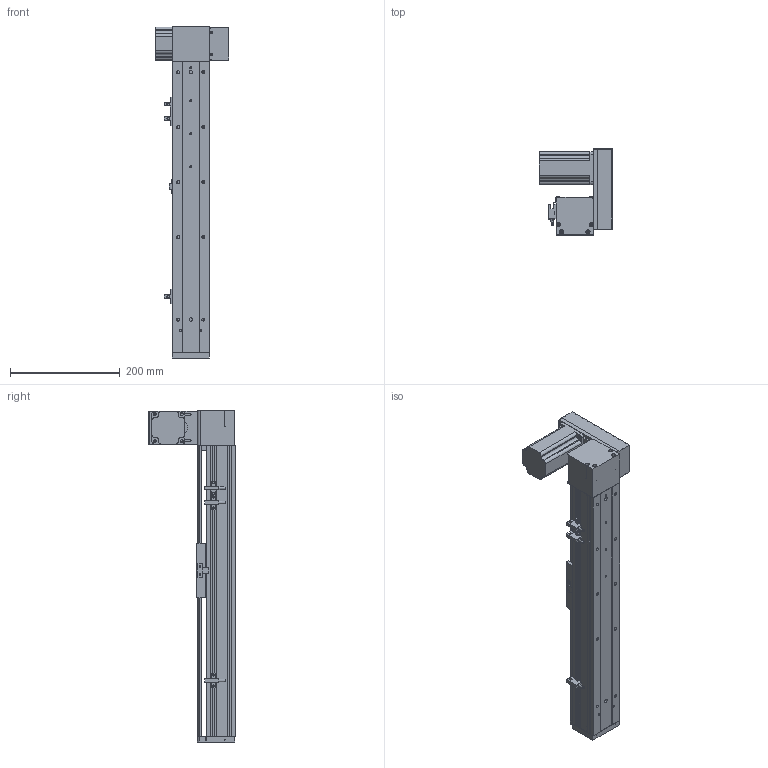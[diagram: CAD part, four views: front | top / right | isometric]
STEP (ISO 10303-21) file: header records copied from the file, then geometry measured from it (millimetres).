
FILE_DESCRIPTION (( 'STEP AP203' ), '1' );
FILE_NAME ('ML68-S350-UL.STEP', '2016-08-04T12:26:47', ( '' ), ( '' ), 'SwSTEP 2.0', 'SolidWorks 2014', '' );
FILE_SCHEMA (( 'CONFIG_CONTROL_DESIGN' ));
Length unit declared in the file: millimetre
Products named in the file (12): ML68傷啣; QS68左右折电机板罩子; ML68-BR傷啣; ML68-S350-UL; ML68奻裔^ML68-S350-UL; ML68雄赽釱; QS68酘衵殏萇儂啣; 三协电机MH201N2_預設; ML68滅鳥啣盓傅輸媼; 60換覜結え; ML68菁釱^ML68-S350-UL; 換覜ん
Assembly tree (13 placements, depth 2):
  ML68-S350-UL
    ML68菁釱^ML68-S350-UL
    ML68奻裔^ML68-S350-UL
    60換覜結え
    ML68-BR傷啣
    換覜ん  x3
    ML68傷啣
    三协电机MH201N2_預設
    ML68雄赽釱
    QS68酘衵殏萇儂啣
    QS68左右折电机板罩子
    ML68滅鳥啣盓傅輸媼
Bounding box: 133.5 x 157 x 604 mm (x, y, z)
Volume: 1375773.2 mm3; surface area: 481193.5 mm2
Topology: 13 solids, 13 shells, 867 faces, 2372 edges, 1507 vertices
Faces by surface type: cylinder 392, plane 383, cone 92
Entity records: 27320 total; most frequent: CARTESIAN_POINT 5090, DIRECTION 4490, ORIENTED_EDGE 4252, EDGE_CURVE 2126, AXIS2_PLACEMENT_3D 1615, VERTEX_POINT 1395, LINE 1260, VECTOR 1260
